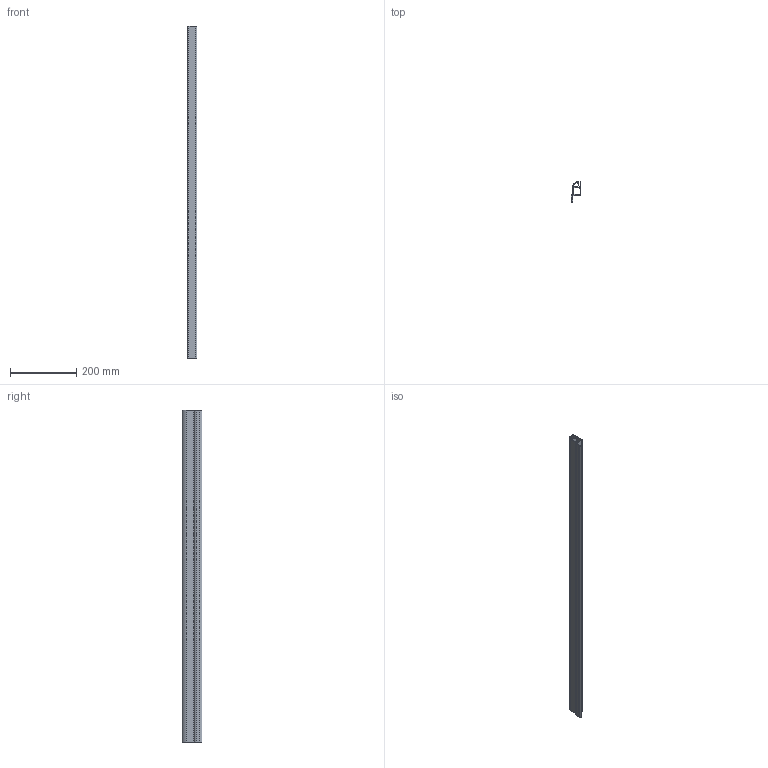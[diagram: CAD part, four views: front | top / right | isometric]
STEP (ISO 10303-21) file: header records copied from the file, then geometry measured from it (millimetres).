
FILE_DESCRIPTION (( 'STEP AP214' ), '1' );
FILE_NAME ('A40821.step', '2024-12-03T16:13:36', ( '' ), ( '' ), 'SwSTEP 2.0', 'SolidWorks 2023', '' );
FILE_SCHEMA (( 'AUTOMOTIVE_DESIGN' ));
Length unit declared in the file: millimetre
Products named in the file (1): A40821
Bounding box: 29.8 x 60 x 1000 mm (x, y, z)
Volume: 345671.3 mm3; surface area: 321781 mm2
Topology: 1 solids, 1 shells, 53 faces, 153 edges, 102 vertices
Faces by surface type: plane 27, cylinder 26
Entity records: 1786 total; most frequent: DIRECTION 313, CARTESIAN_POINT 309, ORIENTED_EDGE 306, EDGE_CURVE 153, AXIS2_PLACEMENT_3D 106, VERTEX_POINT 102, LINE 101, VECTOR 101
